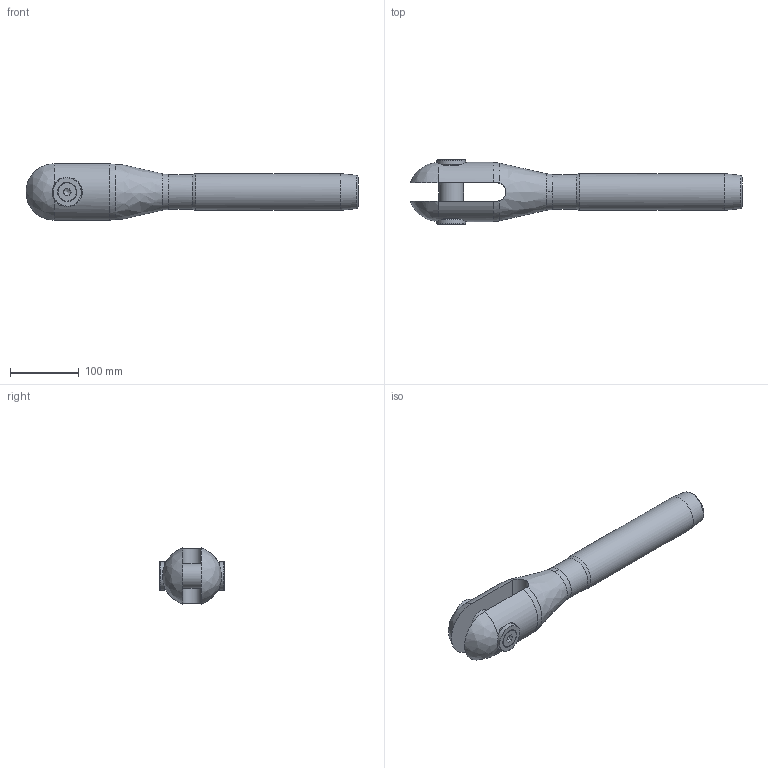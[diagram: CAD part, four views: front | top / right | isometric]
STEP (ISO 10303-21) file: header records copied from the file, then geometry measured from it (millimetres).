
FILE_DESCRIPTION(/* description */ (''),/* implementation_level */ '2;1');
FILE_NAME(/* name */ 'MAC 26_1,4418',/* time_stamp */ '2023-05-23T16:54:55+02:00',/* author */ (''),/* organization */ (''),/* preprocessor_version */ 'ST-DEVELOPER v16.5',/* originating_system */ 'Rhino 7.22',/* authorisation */ '');
FILE_SCHEMA (('CONFIG_CONTROL_DESIGN'));
Length unit declared in the file: millimetre
Products named in the file (1): Document
Bounding box: 482.8 x 93.15 x 81.65 mm (x, y, z)
Volume: 1300870.5 mm3; surface area: 139328.8 mm2
Topology: 6 solids, 6 shells, 75 faces, 210 edges, 145 vertices
Faces by surface type: plane 29, bspline 24, cylinder 22
Full cylindrical faces by diameter (mm): 11.835 x2, 14 x2, 14.5 x2, 26.52 x2, 36 x1, 38 x2, 42 x2, 50.8 x1, 53.4 x1
Entity records: 3138 total; most frequent: CARTESIAN_POINT 1791, ORIENTED_EDGE 412, EDGE_CURVE 206, VERTEX_POINT 145, EDGE_LOOP 85, B_SPLINE_CURVE_WITH_KNOTS 84, ADVANCED_FACE 75, FACE_OUTER_BOUND 75
